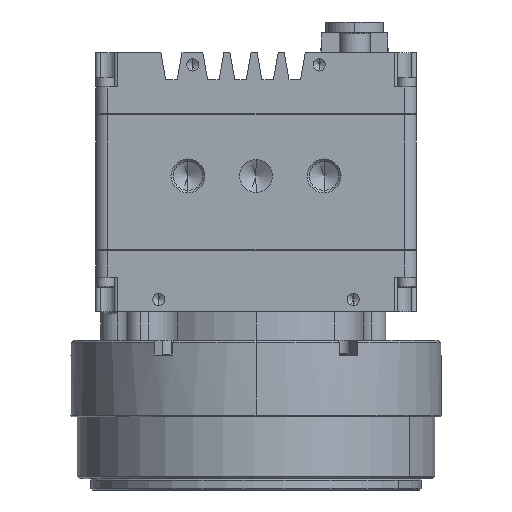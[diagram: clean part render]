
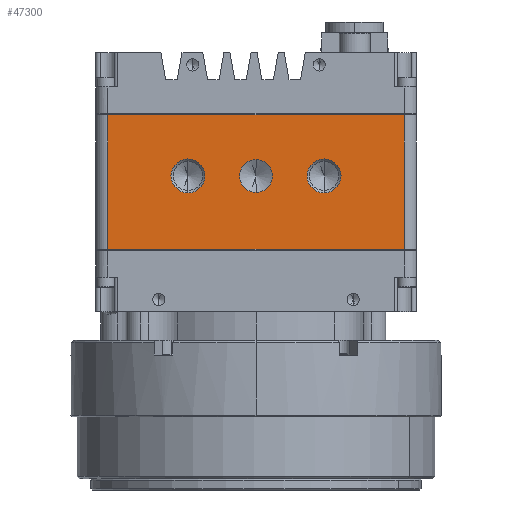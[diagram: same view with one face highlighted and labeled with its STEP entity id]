
A CAD part, front view. The second image highlights one B-rep face of the part: STEP entity #47300.
In plain terms, the highlighted planar face has unit normal (0, -1, 0).
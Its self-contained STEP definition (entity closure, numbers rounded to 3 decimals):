
#198 = EDGE_CURVE ( 'NONE', #1330, #17793, #8755, .T. ) ;
#252 = DIRECTION ( 'NONE',  ( 0., -1., 0. ) ) ;
#504 = CARTESIAN_POINT ( 'NONE',  ( 30.48, -26.67, -0.127 ) ) ;
#765 = CARTESIAN_POINT ( 'NONE',  ( -30.48, -26.67, -0.127 ) ) ;
#863 = EDGE_CURVE ( 'NONE', #29758, #2862, #10831, .T. ) ;
#1330 = VERTEX_POINT ( 'NONE', #33750 ) ;
#2862 = VERTEX_POINT ( 'NONE', #19998 ) ;
#3548 = FACE_BOUND ( 'NONE', #30127, .T. ) ;
#3803 = DIRECTION ( 'NONE',  ( 0., 0., -1. ) ) ;
#3891 = DIRECTION ( 'NONE',  ( 0., -1., 0. ) ) ;
#4104 = EDGE_CURVE ( 'NONE', #39663, #55634, #56375, .T. ) ;
#4406 = CARTESIAN_POINT ( 'NONE',  ( -30.48, -26.67, -27.813 ) ) ;
#4615 = DIRECTION ( 'NONE',  ( 0., 0., -1. ) ) ;
#5077 = EDGE_LOOP ( 'NONE', ( #6538, #44225, #52831, #27113 ) ) ;
#6300 = DIRECTION ( 'NONE',  ( -1., 0., 0. ) ) ;
#6496 = LINE ( 'NONE', #25801, #40807 ) ;
#6538 = ORIENTED_EDGE ( 'NONE', *, *, #17405, .T. ) ;
#7398 = EDGE_CURVE ( 'NONE', #17793, #1330, #7955, .T. ) ;
#7931 = DIRECTION ( 'NONE',  ( 0., 0., -1. ) ) ;
#7955 = CIRCLE ( 'NONE', #11618, 3.5 ) ;
#8755 = CIRCLE ( 'NONE', #54622, 3.5 ) ;
#10181 = AXIS2_PLACEMENT_3D ( 'NONE', #16821, #47442, #17207 ) ;
#10831 = CIRCLE ( 'NONE', #36722, 3.5 ) ;
#11558 = CARTESIAN_POINT ( 'NONE',  ( 30.48, -26.67, -27.813 ) ) ;
#11618 = AXIS2_PLACEMENT_3D ( 'NONE', #22297, #252, #4615 ) ;
#12518 = DIRECTION ( 'NONE',  ( -1., 0., 0. ) ) ;
#13077 = DIRECTION ( 'NONE',  ( 0., -1., 0. ) ) ;
#14246 = VECTOR ( 'NONE', #56448, 1000. ) ;
#14375 = ORIENTED_EDGE ( 'NONE', *, *, #4104, .F. ) ;
#14514 = CARTESIAN_POINT ( 'NONE',  ( -14., -26.67, -9.2 ) ) ;
#15296 = AXIS2_PLACEMENT_3D ( 'NONE', #20937, #20744, #3803 ) ;
#15642 = EDGE_CURVE ( 'NONE', #2862, #29758, #51568, .T. ) ;
#16821 = CARTESIAN_POINT ( 'NONE',  ( -33.02, -26.67, 0. ) ) ;
#17207 = DIRECTION ( 'NONE',  ( 0., 0., 1. ) ) ;
#17405 = EDGE_CURVE ( 'NONE', #47406, #33279, #28075, .T. ) ;
#17793 = VERTEX_POINT ( 'NONE', #14514 ) ;
#19998 = CARTESIAN_POINT ( 'NONE',  ( 14., -26.67, -9.2 ) ) ;
#20744 = DIRECTION ( 'NONE',  ( 0., -1., 0. ) ) ;
#20937 = CARTESIAN_POINT ( 'NONE',  ( 0., -26.67, -12.7 ) ) ;
#21135 = LINE ( 'NONE', #38870, #14246 ) ;
#21790 = DIRECTION ( 'NONE',  ( 0., 0., -1. ) ) ;
#22103 = FACE_BOUND ( 'NONE', #25272, .T. ) ;
#22297 = CARTESIAN_POINT ( 'NONE',  ( -14., -26.67, -12.7 ) ) ;
#22429 = CARTESIAN_POINT ( 'NONE',  ( 14., -26.67, -12.7 ) ) ;
#25272 = EDGE_LOOP ( 'NONE', ( #34205, #37232 ) ) ;
#25801 = CARTESIAN_POINT ( 'NONE',  ( -30.48, -26.67, 0. ) ) ;
#27113 = ORIENTED_EDGE ( 'NONE', *, *, #52240, .T. ) ;
#27515 = CARTESIAN_POINT ( 'NONE',  ( 0., -26.67, -9.322 ) ) ;
#28075 = LINE ( 'NONE', #29540, #54100 ) ;
#28729 = EDGE_CURVE ( 'NONE', #38732, #40532, #40558, .T. ) ;
#29540 = CARTESIAN_POINT ( 'NONE',  ( -30.48, -26.67, -0.127 ) ) ;
#29758 = VERTEX_POINT ( 'NONE', #41196 ) ;
#30127 = EDGE_LOOP ( 'NONE', ( #46703, #56137 ) ) ;
#31453 = DIRECTION ( 'NONE',  ( 0., 0., -1. ) ) ;
#33279 = VERTEX_POINT ( 'NONE', #765 ) ;
#33750 = CARTESIAN_POINT ( 'NONE',  ( -14., -26.67, -16.2 ) ) ;
#33918 = DIRECTION ( 'NONE',  ( 0., -1., 0. ) ) ;
#34205 = ORIENTED_EDGE ( 'NONE', *, *, #863, .F. ) ;
#35303 = DIRECTION ( 'NONE',  ( 0., 0., -1. ) ) ;
#36722 = AXIS2_PLACEMENT_3D ( 'NONE', #39315, #13077, #35303 ) ;
#37232 = ORIENTED_EDGE ( 'NONE', *, *, #15642, .F. ) ;
#37306 = AXIS2_PLACEMENT_3D ( 'NONE', #22429, #48850, #31453 ) ;
#37764 = CARTESIAN_POINT ( 'NONE',  ( -14., -26.67, -12.7 ) ) ;
#38315 = EDGE_LOOP ( 'NONE', ( #54727, #14375 ) ) ;
#38732 = VERTEX_POINT ( 'NONE', #11558 ) ;
#38870 = CARTESIAN_POINT ( 'NONE',  ( 30.48, -26.67, 0. ) ) ;
#39046 = AXIS2_PLACEMENT_3D ( 'NONE', #56382, #3891, #7931 ) ;
#39233 = FACE_BOUND ( 'NONE', #38315, .T. ) ;
#39315 = CARTESIAN_POINT ( 'NONE',  ( 14., -26.67, -12.7 ) ) ;
#39663 = VERTEX_POINT ( 'NONE', #27515 ) ;
#40532 = VERTEX_POINT ( 'NONE', #40832 ) ;
#40558 = LINE ( 'NONE', #4406, #56274 ) ;
#40807 = VECTOR ( 'NONE', #21790, 1000. ) ;
#40832 = CARTESIAN_POINT ( 'NONE',  ( -30.48, -26.67, -27.813 ) ) ;
#41196 = CARTESIAN_POINT ( 'NONE',  ( 14., -26.67, -16.2 ) ) ;
#42677 = CARTESIAN_POINT ( 'NONE',  ( 0., -26.67, -16.078 ) ) ;
#44225 = ORIENTED_EDGE ( 'NONE', *, *, #53869, .T. ) ;
#46653 = EDGE_CURVE ( 'NONE', #55634, #39663, #55022, .T. ) ;
#46703 = ORIENTED_EDGE ( 'NONE', *, *, #198, .F. ) ;
#47300 = ADVANCED_FACE ( 'NONE', ( #3548, #22103, #39233, #51540 ), #51670, .F. ) ;
#47406 = VERTEX_POINT ( 'NONE', #504 ) ;
#47442 = DIRECTION ( 'NONE',  ( 0., 1., 0. ) ) ;
#48850 = DIRECTION ( 'NONE',  ( 0., -1., 0. ) ) ;
#51540 = FACE_OUTER_BOUND ( 'NONE', #5077, .T. ) ;
#51568 = CIRCLE ( 'NONE', #37306, 3.5 ) ;
#51670 = PLANE ( 'NONE',  #10181 ) ;
#52240 = EDGE_CURVE ( 'NONE', #38732, #47406, #21135, .T. ) ;
#52831 = ORIENTED_EDGE ( 'NONE', *, *, #28729, .F. ) ;
#53869 = EDGE_CURVE ( 'NONE', #33279, #40532, #6496, .T. ) ;
#54100 = VECTOR ( 'NONE', #6300, 1000. ) ;
#54622 = AXIS2_PLACEMENT_3D ( 'NONE', #37764, #33918, #54957 ) ;
#54727 = ORIENTED_EDGE ( 'NONE', *, *, #46653, .F. ) ;
#54957 = DIRECTION ( 'NONE',  ( 0., 0., -1. ) ) ;
#55022 = CIRCLE ( 'NONE', #15296, 3.378 ) ;
#55634 = VERTEX_POINT ( 'NONE', #42677 ) ;
#56137 = ORIENTED_EDGE ( 'NONE', *, *, #7398, .F. ) ;
#56274 = VECTOR ( 'NONE', #12518, 1000. ) ;
#56375 = CIRCLE ( 'NONE', #39046, 3.378 ) ;
#56382 = CARTESIAN_POINT ( 'NONE',  ( 0., -26.67, -12.7 ) ) ;
#56448 = DIRECTION ( 'NONE',  ( 0., 0., 1. ) ) ;
